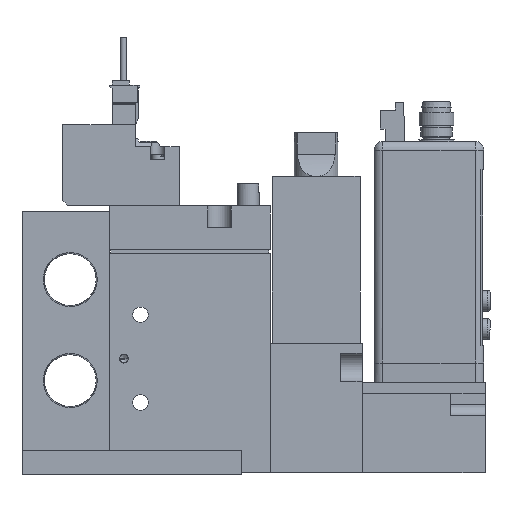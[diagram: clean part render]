
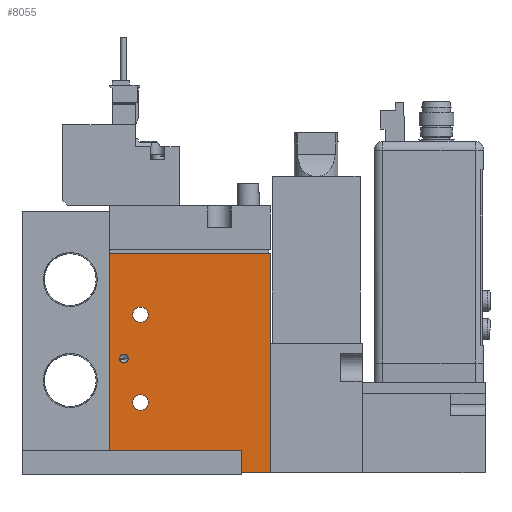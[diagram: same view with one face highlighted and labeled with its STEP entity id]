
A CAD part, left-side view. The second image highlights one B-rep face of the part: STEP entity #8055.
In plain terms, the highlighted planar face has unit normal (-1, 0, 0) as drawn and (1, 0, 0) by its records, which use the part's own axes.
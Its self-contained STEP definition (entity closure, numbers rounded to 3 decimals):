
#8055=ADVANCED_FACE('',(#17138,#17139,#17140,#17141),#17142,.F.);
#17138=FACE_BOUND('',#29305,.T.);
#17139=FACE_BOUND('',#29306,.T.);
#17140=FACE_BOUND('',#29307,.T.);
#17141=FACE_OUTER_BOUND('',#29308,.T.);
#17142=PLANE('',#29309);
#29305=EDGE_LOOP('',(#57118));
#29306=EDGE_LOOP('',(#57119));
#29307=EDGE_LOOP('',(#57120));
#29308=EDGE_LOOP('',(#57121,#57122,#57123,#57124));
#29309=AXIS2_PLACEMENT_3D('',#57125,#57126,#57127);
#57118=ORIENTED_EDGE('',*,*,#83872,.F.);
#57119=ORIENTED_EDGE('',*,*,#83886,.T.);
#57120=ORIENTED_EDGE('',*,*,#83888,.T.);
#57121=ORIENTED_EDGE('',*,*,#83867,.T.);
#57122=ORIENTED_EDGE('',*,*,#83890,.F.);
#57123=ORIENTED_EDGE('',*,*,#83883,.F.);
#57124=ORIENTED_EDGE('',*,*,#83887,.T.);
#57125=CARTESIAN_POINT('',(8.5,-19.444,50.0));
#57126=DIRECTION('',(-1.0,0.0,0.0));
#57127=DIRECTION('',(0.0,0.0,1.0));
#83867=EDGE_CURVE('',#101643,#101641,#101644,.T.);
#83872=EDGE_CURVE('',#101652,#101652,#101653,.T.);
#83883=EDGE_CURVE('',#101669,#101671,#101672,.T.);
#83886=EDGE_CURVE('',#101674,#101674,#101675,.T.);
#83887=EDGE_CURVE('',#101669,#101643,#101676,.T.);
#83888=EDGE_CURVE('',#101677,#101677,#101678,.T.);
#83890=EDGE_CURVE('',#101671,#101641,#101679,.T.);
#101641=VERTEX_POINT('',#129958);
#101643=VERTEX_POINT('',#129961);
#101644=LINE('',#129962,#129963);
#101652=VERTEX_POINT('',#129972);
#101653=CIRCLE('',#129973,1.0);
#101669=VERTEX_POINT('',#129992);
#101671=VERTEX_POINT('',#129995);
#101672=LINE('',#129996,#129997);
#101674=VERTEX_POINT('',#130000);
#101675=CIRCLE('',#130001,1.75);
#101676=LINE('',#130002,#130003);
#101677=VERTEX_POINT('',#130004);
#101678=CIRCLE('',#130005,1.75);
#101679=LINE('',#130006,#130007);
#129958=CARTESIAN_POINT('',(8.5,17.056,0.0));
#129961=CARTESIAN_POINT('',(8.5,-19.444,0.0));
#129962=CARTESIAN_POINT('',(8.5,-19.444,0.0));
#129963=VECTOR('',#154722,1.0);
#129972=CARTESIAN_POINT('',(8.5,-17.244,26.0));
#129973=AXIS2_PLACEMENT_3D('',#154733,#154734,#154735);
#129992=CARTESIAN_POINT('',(8.5,-19.444,50.0));
#129995=CARTESIAN_POINT('',(8.5,17.056,50.0));
#129996=CARTESIAN_POINT('',(8.5,-19.444,50.0));
#129997=VECTOR('',#154755,1.0);
#130000=CARTESIAN_POINT('',(8.5,-10.694,36.0));
#130001=AXIS2_PLACEMENT_3D('',#154757,#154758,#154759);
#130002=CARTESIAN_POINT('',(8.5,-19.444,50.0));
#130003=VECTOR('',#154760,1.0);
#130004=CARTESIAN_POINT('',(8.5,-10.694,16.0));
#130005=AXIS2_PLACEMENT_3D('',#154761,#154762,#154763);
#130006=CARTESIAN_POINT('',(8.5,17.056,50.0));
#130007=VECTOR('',#154764,1.0);
#154722=DIRECTION('',(0.0,1.0,0.0));
#154733=CARTESIAN_POINT('',(8.5,-16.244,26.0));
#154734=DIRECTION('',(1.0,0.,0.0));
#154735=DIRECTION('',(0.,-1.0,0.0));
#154755=DIRECTION('',(0.0,1.0,0.0));
#154757=CARTESIAN_POINT('',(8.5,-12.444,36.0));
#154758=DIRECTION('',(-1.0,0.0,0.0));
#154759=DIRECTION('',(0.0,1.0,0.0));
#154760=DIRECTION('',(0.0,0.0,-1.0));
#154761=CARTESIAN_POINT('',(8.5,-12.444,16.0));
#154762=DIRECTION('',(-1.0,0.0,0.0));
#154763=DIRECTION('',(0.0,1.0,0.0));
#154764=DIRECTION('',(0.0,0.0,-1.0));
